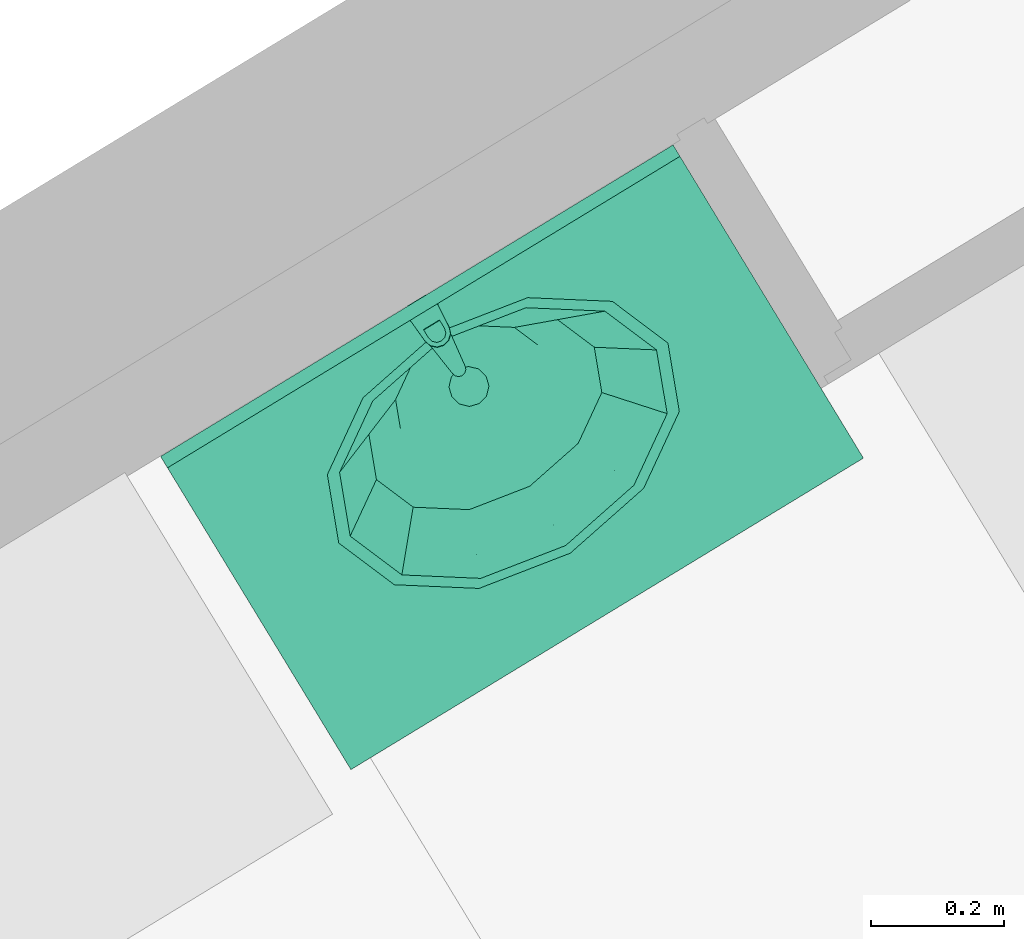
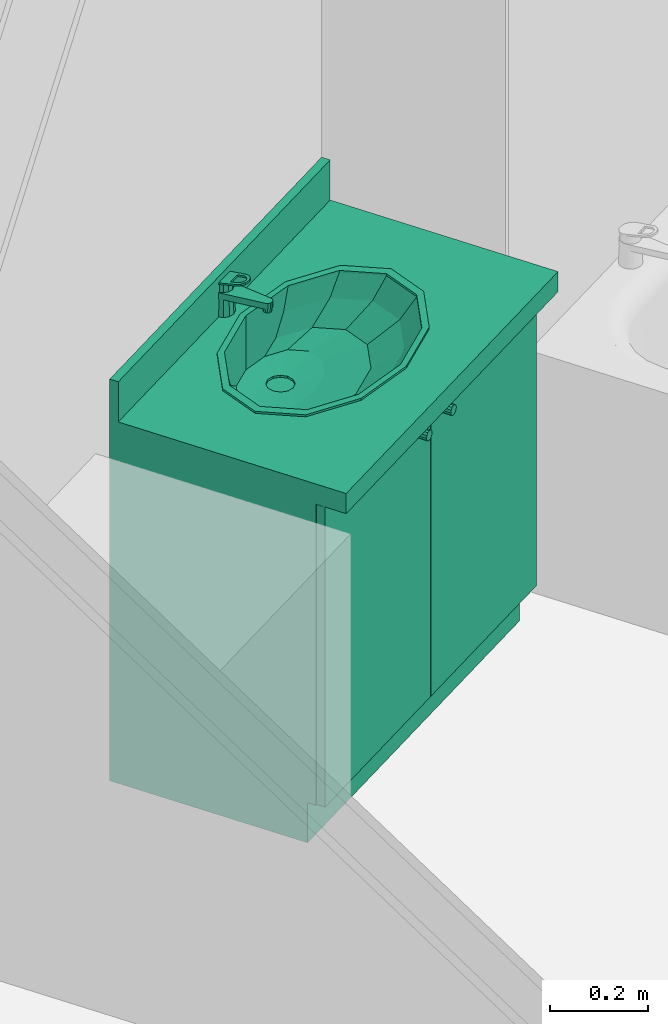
# One storey, part 116 of 119: 1 flow terminal.
"""IFC2X3 building model written with IfcOpenShell, lengths in metres."""

from ifc_helpers import new_model, entity, si_unit, converted_unit, derived_unit, money_unit, direction, frame, origin_with_axes, place, context, subcontext, project, spatial, open_shell, faceted_brep, surface_model, type_object, element, save


model = new_model("IFC2X3")

# Units and contexts
model_context = context("Model", 3, precision=1e-05, world=origin_with_axes(), true_north=direction((0.0, 1.0)))
body_context = subcontext(model_context, "Body", "Model", "MODEL_VIEW")
ifc_project = project(units=[si_unit("LENGTHUNIT", "METRE"), si_unit("AREAUNIT", "SQUARE_METRE"), si_unit("VOLUMEUNIT", "CUBIC_METRE"), converted_unit("PLANEANGLEUNIT", "DEGREE", entity("IfcPlaneAngleMeasure", 0.0174532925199), si_unit("PLANEANGLEUNIT", "RADIAN"), dimensions=[0, 0, 0, 0, 0, 0, 0]), si_unit("SOLIDANGLEUNIT", "STERADIAN"), money_unit("EUR"), converted_unit("TIMEUNIT", "Year", entity("IfcTimeMeasure", 31556926.0), si_unit("TIMEUNIT", "SECOND"), dimensions=[0, 0, 1, 0, 0, 0, 0]), si_unit("MASSUNIT", "GRAM", prefix="KILO"), si_unit("THERMODYNAMICTEMPERATUREUNIT", "DEGREE_CELSIUS"), si_unit("LUMINOUSINTENSITYUNIT", "LUMEN"), si_unit("ENERGYUNIT", "JOULE", prefix="MEGA"), derived_unit("THERMALCONDUCTANCEUNIT", [(si_unit("POWERUNIT", "WATT"), 1), (si_unit("LENGTHUNIT", "METRE"), -1), (si_unit("THERMODYNAMICTEMPERATUREUNIT", "KELVIN"), -1)]), derived_unit("SPECIFICHEATCAPACITYUNIT", [(si_unit("ENERGYUNIT", "JOULE"), 1), (si_unit("MASSUNIT", "GRAM", prefix="KILO"), -1), (si_unit("THERMODYNAMICTEMPERATUREUNIT", "KELVIN"), -1)]), derived_unit("MASSDENSITYUNIT", [(si_unit("MASSUNIT", "GRAM", prefix="KILO"), 1), (si_unit("VOLUMEUNIT", "CUBIC_METRE"), -1)])], contexts=[model_context])

# Site, building, storey
site_placement = place(None, origin_with_axes())
site = spatial("IfcSite", under=ifc_project, at=site_placement, Name="Site", CompositionType="ELEMENT")
building_placement = place(site_placement, origin_with_axes())
building = spatial("IfcBuilding", under=site, at=building_placement, Name="Bâtiment", CompositionType="ELEMENT")
storey_placement = place(building_placement, origin_with_axes())
storey = spatial("IfcBuildingStorey", under=building, at=storey_placement, Name="Rez-de-chaussée", CompositionType="ELEMENT", Elevation=0.0)

# Flow terminal
sanitary_terminal_type = type_object("IfcSanitaryTerminalType", Name="Lavabo sur meuble 23", PredefinedType="NOTDEFINED")
flow_terminal_placement = place(storey_placement, frame((-3.72495439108, 22.5185798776, 0.0), z_axis=(0.0, 0.0, 1.0), x_axis=(0.85453953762, 0.51938634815, 0.0)))
element("IfcFlowTerminal", 1, at=flow_terminal_placement, inside=storey, type_object=sanitary_terminal_type, Name="MOB-002", ObjectType="SANITARY_TERMINAL", context=body_context, shape_type="SurfaceModel", body=[
    faceted_brep([(0.0, 0.09, 0.0), (0.9, 0.09, 0.0), (0.9, 0.09, 0.1), (0.0, 0.09, 0.1), (0.0, 0.55, 0.0), (0.9, 0.55, 0.0), (0.9, 0.55, 0.1), (0.0, 0.55, 0.1)], [[[0, 1, 2, 3]], [[0, 4, 5, 1]], [[1, 5, 6, 2]], [[3, 2, 6, 7]], [[4, 0, 3, 7]], [[5, 4, 7, 6]]]),
    faceted_brep([(0.0, 0.07, 0.1), (0.02, 0.07, 0.1), (0.02, 0.07, 0.12), (0.0, 0.07, 0.12), (0.0, 0.55, 0.1), (0.02, 0.55, 0.1), (0.88, 0.55, 0.1), (0.9, 0.55, 0.1), (0.9, 0.07, 0.1), (0.88, 0.07, 0.1), (0.88, 0.07, 0.12), (0.9, 0.07, 0.12), (0.9, 0.55, 0.12), (0.88, 0.55, 0.12), (0.02, 0.55, 0.12), (0.0, 0.55, 0.12)], [[[0, 1, 2, 3]], [[0, 4, 5, 6, 7, 8, 9, 1]], [[1, 9, 10, 2]], [[3, 2, 10, 11, 12, 13, 14, 15]], [[4, 0, 3, 15]], [[5, 4, 15, 14]], [[6, 5, 14, 13]], [[7, 6, 13, 12]], [[8, 7, 12, 11]], [[9, 8, 11, 10]]]),
    faceted_brep([(0.0, 0.07, 0.12), (0.02, 0.07, 0.12), (0.02, 0.07, 0.85), (0.0, 0.07, 0.85), (0.0, 0.55, 0.12), (0.9, 0.55, 0.12), (0.9, 0.07, 0.12), (0.88, 0.07, 0.12), (0.88, 0.53, 0.12), (0.02, 0.53, 0.12), (0.02, 0.53, 0.85), (0.88, 0.53, 0.85), (0.88, 0.07, 0.85), (0.9, 0.07, 0.85), (0.9, 0.55, 0.85), (0.0, 0.55, 0.85)], [[[0, 1, 2, 3]], [[0, 4, 5, 6, 7, 8, 9, 1]], [[1, 9, 10, 2]], [[3, 2, 10, 11, 12, 13, 14, 15]], [[4, 0, 3, 15]], [[5, 4, 15, 14]], [[6, 5, 14, 13]], [[7, 6, 13, 12]], [[8, 7, 12, 11]], [[9, 8, 11, 10]]]),
    faceted_brep([(0.88, 0.07, 0.323333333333), (0.88, 0.53, 0.323333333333), (0.88, 0.53, 0.343333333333), (0.88, 0.07, 0.343333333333), (0.02, 0.07, 0.323333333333), (0.02, 0.53, 0.323333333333), (0.02, 0.53, 0.343333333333), (0.02, 0.07, 0.343333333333)], [[[0, 1, 2, 3]], [[0, 4, 5, 1]], [[1, 5, 6, 2]], [[3, 2, 6, 7]], [[4, 0, 3, 7]], [[5, 4, 7, 6]]]),
    faceted_brep([(0.88, 0.07, 0.566666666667), (0.88, 0.53, 0.566666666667), (0.88, 0.53, 0.586666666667), (0.88, 0.07, 0.586666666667), (0.02, 0.07, 0.566666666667), (0.02, 0.53, 0.566666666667), (0.02, 0.53, 0.586666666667), (0.02, 0.07, 0.586666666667)], [[[0, 1, 2, 3]], [[0, 4, 5, 1]], [[1, 5, 6, 2]], [[3, 2, 6, 7]], [[4, 0, 3, 7]], [[5, 4, 7, 6]]]),
    faceted_brep([(0.0, 0.55, 0.85), (0.9, 0.55, 0.85), (0.9, 0.0, 0.85), (0.0, 0.0, 0.85), (0.585, 0.144115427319, 0.85), (0.683826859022, 0.21, 0.85), (0.72, 0.3, 0.85), (0.683826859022, 0.39, 0.85), (0.585, 0.455884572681, 0.85), (0.45, 0.48, 0.85), (0.315, 0.455884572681, 0.85), (0.216173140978, 0.39, 0.85), (0.18, 0.3, 0.85), (0.216173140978, 0.21, 0.85), (0.315, 0.144115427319, 0.85), (0.45, 0.12, 0.85), (0.0, 0.55, 0.9), (0.9, 0.55, 0.9), (0.9, 0.0, 0.9), (0.0, 0.0, 0.9), (0.585, 0.144115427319, 0.9), (0.683826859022, 0.21, 0.9), (0.72, 0.3, 0.9), (0.683826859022, 0.39, 0.9), (0.585, 0.455884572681, 0.9), (0.45, 0.48, 0.9), (0.315, 0.455884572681, 0.9), (0.216173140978, 0.39, 0.9), (0.18, 0.3, 0.9), (0.216173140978, 0.21, 0.9), (0.315, 0.144115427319, 0.9), (0.45, 0.12, 0.9)], [[[0, 1, 2, 3], [4, 5, 6, 7, 8, 9, 10, 11, 12, 13, 14, 15]], [[0, 16, 17, 1]], [[1, 17, 18, 2]], [[2, 18, 19, 3]], [[3, 19, 16, 0]], [[20, 21, 5, 4]], [[21, 22, 6, 5]], [[22, 23, 7, 6]], [[23, 24, 8, 7]], [[24, 25, 9, 8]], [[25, 26, 10, 9]], [[26, 27, 11, 10]], [[27, 28, 12, 11]], [[28, 29, 13, 12]], [[29, 30, 14, 13]], [[30, 31, 15, 14]], [[31, 20, 4, 15]], [[18, 17, 16, 19], [24, 23, 22, 21, 20, 31, 30, 29, 28, 27, 26, 25]]]),
    faceted_brep([(0.0, 0.53, 0.9), (0.9, 0.53, 0.9), (0.9, 0.53, 1.0), (0.0, 0.53, 1.0), (0.0, 0.55, 0.9), (0.9, 0.55, 0.9), (0.9, 0.55, 1.0), (0.0, 0.55, 1.0)], [[[0, 1, 2, 3]], [[0, 4, 5, 1]], [[1, 5, 6, 2]], [[3, 2, 6, 7]], [[4, 0, 3, 7]], [[5, 4, 7, 6]]]),
    faceted_brep([(0.739, 0.3, 0.905), (0.739, 0.3, 0.9), (0.700281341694, 0.396691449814, 0.9), (0.700281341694, 0.396691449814, 0.905), (0.700281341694, 0.203308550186, 0.905), (0.700281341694, 0.203308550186, 0.9), (0.5945, 0.132525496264, 0.9), (0.45, 0.106617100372, 0.9), (0.3055, 0.132525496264, 0.9), (0.199718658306, 0.203308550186, 0.9), (0.161, 0.3, 0.9), (0.199718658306, 0.396691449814, 0.9), (0.3055, 0.467474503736, 0.9), (0.45, 0.493382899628, 0.9), (0.5945, 0.467474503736, 0.9), (0.719, 0.3, 0.9), (0.682960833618, 0.39, 0.9), (0.5845, 0.455884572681, 0.9), (0.45, 0.48, 0.9), (0.3155, 0.455884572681, 0.9), (0.217039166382, 0.39, 0.9), (0.181, 0.3, 0.9), (0.217039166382, 0.21, 0.9), (0.3155, 0.144115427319, 0.9), (0.45, 0.12, 0.9), (0.5845, 0.144115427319, 0.9), (0.682960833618, 0.21, 0.9), (0.5945, 0.467474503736, 0.905), (0.45, 0.493382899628, 0.905), (0.3055, 0.467474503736, 0.905), (0.199718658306, 0.396691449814, 0.905), (0.161, 0.3, 0.905), (0.199718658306, 0.203308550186, 0.905), (0.3055, 0.132525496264, 0.905), (0.45, 0.106617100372, 0.905), (0.5945, 0.132525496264, 0.905), (0.719, 0.3, 0.905), (0.682960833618, 0.21, 0.905), (0.5845, 0.144115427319, 0.905), (0.45, 0.12, 0.905), (0.3155, 0.144115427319, 0.905), (0.217039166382, 0.21, 0.905), (0.181, 0.3, 0.905), (0.217039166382, 0.39, 0.905), (0.3155, 0.455884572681, 0.905), (0.45, 0.48, 0.905), (0.5845, 0.455884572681, 0.905), (0.682960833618, 0.39, 0.905)], [[[0, 1, 2, 3]], [[4, 5, 1, 0]], [[1, 5, 6, 7, 8, 9, 10, 11, 12, 13, 14, 2], [15, 16, 17, 18, 19, 20, 21, 22, 23, 24, 25, 26]], [[3, 2, 14, 27]], [[0, 3, 27, 28, 29, 30, 31, 32, 33, 34, 35, 4], [36, 37, 38, 39, 40, 41, 42, 43, 44, 45, 46, 47]], [[35, 6, 5, 4]], [[34, 7, 6, 35]], [[33, 8, 7, 34]], [[32, 9, 8, 33]], [[31, 10, 9, 32]], [[30, 11, 10, 31]], [[29, 12, 11, 30]], [[28, 13, 12, 29]], [[27, 14, 13, 28]], [[47, 16, 15, 36]], [[46, 17, 16, 47]], [[45, 18, 17, 46]], [[44, 19, 18, 45]], [[43, 20, 19, 44]], [[42, 21, 20, 43]], [[41, 22, 21, 42]], [[40, 23, 22, 41]], [[39, 24, 23, 40]], [[38, 25, 24, 39]], [[37, 26, 25, 38]], [[36, 15, 26, 37]]]),
    surface_model("IfcShellBasedSurfaceModel", [(0.45, 0.48, 0.9), (0.45, 0.48, 0.848), (0.57105, 0.458296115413, 0.848), (0.5845, 0.455884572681, 0.9), (0.3155, 0.455884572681, 0.9), (0.32895, 0.458296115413, 0.848), (0.659664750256, 0.399, 0.848), (0.682960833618, 0.39, 0.9), (0.217039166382, 0.39, 0.9), (0.240335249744, 0.399, 0.848), (0.6921, 0.318, 0.848), (0.719, 0.3, 0.9), (0.181, 0.3, 0.9), (0.2079, 0.318, 0.848), (0.659664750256, 0.237, 0.848), (0.682960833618, 0.21, 0.9), (0.217039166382, 0.21, 0.9), (0.240335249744, 0.237, 0.848), (0.57105, 0.177703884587, 0.848), (0.5845, 0.144115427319, 0.9), (0.3155, 0.144115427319, 0.9), (0.32895, 0.177703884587, 0.848), (0.45, 0.156, 0.848), (0.45, 0.12, 0.9)], [open_shell([[[0, 1, 2, 3]], [[4, 5, 1, 0]], [[3, 2, 6, 7]], [[8, 9, 5, 4]], [[7, 6, 10, 11]], [[12, 13, 9, 8]], [[11, 10, 14, 15]], [[16, 17, 13, 12]], [[15, 14, 18, 19]], [[20, 21, 17, 16]], [[19, 18, 22, 23]], [[23, 22, 21, 20]]])]),
    surface_model("IfcShellBasedSurfaceModel", [(0.45, 0.48, 0.848), (0.45, 0.48, 0.796), (0.5456295, 0.462853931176, 0.796), (0.57105, 0.458296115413, 0.848), (0.32895, 0.458296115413, 0.848), (0.3543705, 0.462853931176, 0.796), (0.615635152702, 0.41601, 0.796), (0.659664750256, 0.399, 0.848), (0.240335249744, 0.399, 0.848), (0.284364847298, 0.41601, 0.796), (0.641259, 0.35202, 0.796), (0.6921, 0.318, 0.848), (0.2079, 0.318, 0.848), (0.258741, 0.35202, 0.796), (0.615635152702, 0.28803, 0.796), (0.659664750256, 0.237, 0.848), (0.240335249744, 0.237, 0.848), (0.284364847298, 0.28803, 0.796), (0.5456295, 0.241186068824, 0.796), (0.57105, 0.177703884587, 0.848), (0.32895, 0.177703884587, 0.848), (0.3543705, 0.241186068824, 0.796), (0.45, 0.22404, 0.796), (0.45, 0.156, 0.848)], [open_shell([[[0, 1, 2, 3]], [[4, 5, 1, 0]], [[3, 2, 6, 7]], [[8, 9, 5, 4]], [[7, 6, 10, 11]], [[12, 13, 9, 8]], [[11, 10, 14, 15]], [[16, 17, 13, 12]], [[15, 14, 18, 19]], [[20, 21, 17, 16]], [[19, 18, 22, 23]], [[23, 22, 21, 20]]])]),
    surface_model("IfcShellBasedSurfaceModel", [(0.45, 0.48, 0.796), (0.45, 0.48, 0.77), (0.510246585, 0.469197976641, 0.77), (0.5456295, 0.462853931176, 0.796), (0.3543705, 0.462853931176, 0.796), (0.389753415, 0.469197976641, 0.77), (0.554350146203, 0.4396863, 0.77), (0.615635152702, 0.41601, 0.796), (0.284364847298, 0.41601, 0.796), (0.345649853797, 0.4396863, 0.77), (0.57049317, 0.3993726, 0.77), (0.641259, 0.35202, 0.796), (0.258741, 0.35202, 0.796), (0.32950683, 0.3993726, 0.77), (0.554350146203, 0.3590589, 0.77), (0.615635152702, 0.28803, 0.796), (0.284364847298, 0.28803, 0.796), (0.345649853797, 0.3590589, 0.77), (0.510246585, 0.329547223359, 0.77), (0.5456295, 0.241186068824, 0.796), (0.3543705, 0.241186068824, 0.796), (0.389753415, 0.329547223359, 0.77), (0.45, 0.3187452, 0.77), (0.45, 0.22404, 0.796)], [open_shell([[[0, 1, 2, 3]], [[4, 5, 1, 0]], [[3, 2, 6, 7]], [[8, 9, 5, 4]], [[7, 6, 10, 11]], [[12, 13, 9, 8]], [[11, 10, 14, 15]], [[16, 17, 13, 12]], [[15, 14, 18, 19]], [[20, 21, 17, 16]], [[19, 18, 22, 23]], [[23, 22, 21, 20]]])]),
    surface_model("IfcShellBasedSurfaceModel", [(0.45, 0.48, 0.77), (0.465, 0.425353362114, 0.763), (0.510246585, 0.469197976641, 0.77), (0.45, 0.4293726, 0.763), (0.475980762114, 0.4143726, 0.763), (0.389753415, 0.469197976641, 0.77), (0.554350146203, 0.4396863, 0.77), (0.435, 0.425353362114, 0.763), (0.48, 0.3993726, 0.763), (0.345649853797, 0.4396863, 0.77), (0.57049317, 0.3993726, 0.77), (0.424019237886, 0.4143726, 0.763), (0.475980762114, 0.3843726, 0.763), (0.32950683, 0.3993726, 0.77), (0.554350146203, 0.3590589, 0.77), (0.42, 0.3993726, 0.763), (0.465, 0.373391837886, 0.763), (0.345649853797, 0.3590589, 0.77), (0.510246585, 0.329547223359, 0.77), (0.424019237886, 0.3843726, 0.763), (0.45, 0.3693726, 0.763), (0.389753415, 0.329547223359, 0.77), (0.45, 0.3187452, 0.77), (0.435, 0.373391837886, 0.763)], [open_shell([[[0, 1, 2]], [[0, 3, 1]], [[2, 1, 4]], [[5, 3, 0]], [[2, 4, 6]], [[5, 7, 3]], [[6, 4, 8]], [[9, 7, 5]], [[6, 8, 10]], [[9, 11, 7]], [[10, 8, 12]], [[13, 11, 9]], [[10, 12, 14]], [[13, 15, 11]], [[14, 12, 16]], [[17, 15, 13]], [[14, 16, 18]], [[17, 19, 15]], [[18, 16, 20]], [[21, 19, 17]], [[18, 20, 22]], [[21, 23, 19]], [[22, 20, 23]], [[22, 23, 21]]])]),
    surface_model("IfcShellBasedSurfaceModel", [(0.48, 0.3993726, 0.763), (0.48, 0.3993726, 0.758), (0.475980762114, 0.4143726, 0.758), (0.475980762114, 0.4143726, 0.763), (0.475980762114, 0.3843726, 0.763), (0.475980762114, 0.3843726, 0.758), (0.465, 0.373391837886, 0.758), (0.45, 0.3693726, 0.758), (0.435, 0.373391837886, 0.758), (0.424019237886, 0.3843726, 0.758), (0.42, 0.3993726, 0.758), (0.424019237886, 0.4143726, 0.758), (0.435, 0.425353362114, 0.758), (0.45, 0.4293726, 0.758), (0.465, 0.425353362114, 0.758), (0.465, 0.425353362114, 0.763), (0.465, 0.373391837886, 0.763), (0.45, 0.3693726, 0.763), (0.435, 0.373391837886, 0.763), (0.424019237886, 0.3843726, 0.763), (0.42, 0.3993726, 0.763), (0.424019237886, 0.4143726, 0.763), (0.435, 0.425353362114, 0.763), (0.45, 0.4293726, 0.763)], [open_shell([[[0, 1, 2, 3]], [[4, 5, 1, 0]], [[1, 5, 6, 7, 8, 9, 10, 11, 12, 13, 14, 2]], [[3, 2, 14, 15]], [[16, 6, 5, 4]], [[17, 7, 6, 16]], [[18, 8, 7, 17]], [[19, 9, 8, 18]], [[20, 10, 9, 19]], [[21, 11, 10, 20]], [[22, 12, 11, 21]], [[23, 13, 12, 22]], [[15, 14, 13, 23]]])]),
    faceted_brep([(0.4625, 0.554150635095, 0.9), (0.45, 0.5575, 0.9), (0.45, 0.553701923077, 0.975961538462), (0.460587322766, 0.550837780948, 0.976507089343), (0.471650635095, 0.545, 0.9), (0.475, 0.5325, 0.9), (0.471650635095, 0.52, 0.9), (0.4625, 0.510849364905, 0.9), (0.45, 0.5075, 0.9), (0.4375, 0.510849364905, 0.9), (0.428349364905, 0.52, 0.9), (0.425, 0.5325, 0.9), (0.428349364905, 0.545, 0.9), (0.4375, 0.554150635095, 0.9), (0.439412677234, 0.550837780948, 0.976507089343), (0.431726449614, 0.543050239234, 0.977990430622), (0.429, 0.5325, 0.98), (0.431899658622, 0.522049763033, 0.981990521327), (0.439585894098, 0.514462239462, 0.983435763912), (0.45, 0.511698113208, 0.983962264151), (0.460414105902, 0.514462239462, 0.983435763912), (0.468100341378, 0.522049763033, 0.981990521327), (0.471, 0.5325, 0.98), (0.468273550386, 0.543050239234, 0.977990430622)], [[[0, 1, 2, 3]], [[0, 4, 5, 6, 7, 8, 9, 10, 11, 12, 13, 1]], [[1, 13, 14, 2]], [[3, 2, 14, 15, 16, 17, 18, 19, 20, 21, 22, 23]], [[4, 0, 3, 23]], [[5, 4, 23, 22]], [[6, 5, 22, 21]], [[7, 6, 21, 20]], [[8, 7, 20, 19]], [[9, 8, 19, 18]], [[10, 9, 18, 17]], [[11, 10, 17, 16]], [[12, 11, 16, 15]], [[13, 12, 15, 14]]]),
    faceted_brep([(0.459, 0.4295, 0.935), (0.457794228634, 0.434, 0.935), (0.457794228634, 0.434, 0.945), (0.459, 0.4295, 0.945), (0.457794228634, 0.425, 0.935), (0.4545, 0.421705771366, 0.935), (0.45, 0.4205, 0.935), (0.4455, 0.421705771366, 0.935), (0.442205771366, 0.425, 0.935), (0.441, 0.4295, 0.935), (0.442205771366, 0.434, 0.935), (0.4455, 0.437294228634, 0.935), (0.45, 0.4385, 0.935), (0.4545, 0.437294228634, 0.935), (0.4545, 0.437294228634, 0.945), (0.45, 0.4385, 0.945), (0.4455, 0.437294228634, 0.945), (0.442205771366, 0.434, 0.945), (0.441, 0.4295, 0.945), (0.442205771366, 0.425, 0.945), (0.4455, 0.421705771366, 0.945), (0.45, 0.4205, 0.945), (0.4545, 0.421705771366, 0.945), (0.457794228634, 0.425, 0.945)], [[[0, 1, 2, 3]], [[0, 4, 5, 6, 7, 8, 9, 10, 11, 12, 13, 1]], [[1, 13, 14, 2]], [[3, 2, 14, 15, 16, 17, 18, 19, 20, 21, 22, 23]], [[4, 0, 3, 23]], [[5, 4, 23, 22]], [[6, 5, 22, 21]], [[7, 6, 21, 20]], [[8, 7, 20, 19]], [[9, 8, 19, 18]], [[10, 9, 18, 17]], [[11, 10, 17, 16]], [[12, 11, 16, 15]], [[13, 12, 15, 14]]]),
    faceted_brep([(0.437128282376, 0.552756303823, 0.96), (0.428272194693, 0.54269320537, 0.96), (0.4261946, 0.5294501, 0.96), (0.439088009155, 0.428111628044, 0.96), (0.440971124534, 0.423216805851, 0.96), (0.444906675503, 0.419750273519, 0.96), (0.450000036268, 0.41850003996, 0.96), (0.455093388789, 0.419750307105, 0.96), (0.459028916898, 0.423216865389, 0.96), (0.460912, 0.4281117, 0.96), (0.473805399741, 0.529450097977, 0.96), (0.471727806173, 0.542693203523, 0.96), (0.462871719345, 0.552756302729, 0.96), (0.45000000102, 0.556499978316, 0.96), (0.461, 0.551552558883, 0.96), (0.469052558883, 0.5435, 0.96), (0.472, 0.5325, 0.96), (0.469052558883, 0.5215, 0.96), (0.461, 0.513447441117, 0.96), (0.45, 0.5105, 0.96), (0.439, 0.513447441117, 0.96), (0.430947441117, 0.5215, 0.96), (0.428, 0.5325, 0.96), (0.430947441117, 0.5435, 0.96), (0.439, 0.551552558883, 0.96), (0.45, 0.5545, 0.96), (0.428272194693, 0.54269320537, 0.945), (0.437128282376, 0.552756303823, 0.945), (0.4261946, 0.5294501, 0.945), (0.439088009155, 0.428111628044, 0.945), (0.440971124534, 0.423216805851, 0.945), (0.444906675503, 0.419750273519, 0.945), (0.450000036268, 0.41850003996, 0.945), (0.455093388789, 0.419750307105, 0.945), (0.459028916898, 0.423216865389, 0.945), (0.460912, 0.4281117, 0.945), (0.473805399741, 0.529450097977, 0.945), (0.471727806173, 0.542693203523, 0.945), (0.462871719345, 0.552756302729, 0.945), (0.45000000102, 0.556499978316, 0.945), (0.461375, 0.552202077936, 0.945), (0.469702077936, 0.543875, 0.945), (0.47275, 0.5325, 0.945), (0.469702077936, 0.521125, 0.945), (0.461375, 0.512797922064, 0.945), (0.45, 0.50975, 0.945), (0.438625, 0.512797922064, 0.945), (0.430297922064, 0.521125, 0.945), (0.42725, 0.5325, 0.945), (0.430297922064, 0.543875, 0.945), (0.438625, 0.552202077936, 0.945), (0.45, 0.55525, 0.945)], [[[0, 1, 2, 3, 4, 5, 6, 7, 8, 9, 10, 11, 12, 13], [14, 15, 16, 17, 18, 19, 20, 21, 22, 23, 24, 25]], [[26, 1, 0, 27]], [[28, 2, 1, 26]], [[29, 3, 2, 28]], [[30, 4, 3, 29]], [[31, 5, 4, 30]], [[32, 6, 5, 31]], [[33, 7, 6, 32]], [[34, 8, 7, 33]], [[35, 9, 8, 34]], [[36, 10, 9, 35]], [[37, 11, 10, 36]], [[38, 12, 11, 37]], [[39, 13, 12, 38]], [[27, 0, 13, 39]], [[40, 41, 15, 14]], [[41, 42, 16, 15]], [[42, 43, 17, 16]], [[43, 44, 18, 17]], [[44, 45, 19, 18]], [[20, 19, 45, 46]], [[21, 20, 46, 47]], [[22, 21, 47, 48]], [[23, 22, 48, 49]], [[24, 23, 49, 50]], [[50, 51, 25, 24]], [[51, 40, 14, 25]], [[32, 31, 30, 29, 28, 26, 27, 39, 38, 37, 36, 35, 34, 33], [44, 43, 42, 41, 40, 51, 50, 49, 48, 47, 46, 45]]]),
    faceted_brep([(0.473893, 0.53080743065, 0.980322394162), (0.471296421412, 0.543274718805, 0.977947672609), (0.471296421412, 0.544023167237, 0.981877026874), (0.473893, 0.531555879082, 0.984251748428), (0.470945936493, 0.490663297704, 0.987968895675), (0.467663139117, 0.480985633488, 0.989812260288), (0.460061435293, 0.474036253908, 0.991135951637), (0.449999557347, 0.47151438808, 0.991616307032), (0.439937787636, 0.474036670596, 0.991135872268), (0.432336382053, 0.480986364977, 0.989812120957), (0.429054, 0.490664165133, 0.987968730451), (0.426106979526, 0.530807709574, 0.980322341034), (0.428703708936, 0.543274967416, 0.977947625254), (0.43752831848, 0.552591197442, 0.976173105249), (0.450000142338, 0.556031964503, 0.975517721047), (0.46247192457, 0.552591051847, 0.976173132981), (0.464, 0.506959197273, 0.984864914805), (0.436, 0.506959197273, 0.984864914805), (0.436, 0.492143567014, 0.987686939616), (0.437875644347, 0.485267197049, 0.988996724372), (0.443, 0.480233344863, 0.989955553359), (0.45, 0.478390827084, 0.990306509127), (0.457, 0.480233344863, 0.989955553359), (0.462124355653, 0.485267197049, 0.988996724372), (0.464, 0.492143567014, 0.987686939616), (0.46247192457, 0.553339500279, 0.980102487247), (0.450000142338, 0.556780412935, 0.979447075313), (0.43752831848, 0.553339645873, 0.980102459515), (0.428703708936, 0.544023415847, 0.98187697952), (0.426106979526, 0.531556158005, 0.984251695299), (0.429054, 0.491412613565, 0.991898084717), (0.432336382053, 0.481734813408, 0.993741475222), (0.439937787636, 0.474785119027, 0.995065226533), (0.449999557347, 0.472262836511, 0.995545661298), (0.460061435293, 0.47478470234, 0.995065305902), (0.467663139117, 0.48173408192, 0.993741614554), (0.470945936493, 0.491411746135, 0.991898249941), (0.464, 0.507707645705, 0.988794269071), (0.464, 0.492892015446, 0.991616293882), (0.462124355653, 0.486015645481, 0.992926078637), (0.457, 0.480981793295, 0.993884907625), (0.45, 0.479139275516, 0.994235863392), (0.443, 0.480981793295, 0.993884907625), (0.437875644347, 0.486015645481, 0.992926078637), (0.436, 0.492892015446, 0.991616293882), (0.436, 0.507707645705, 0.988794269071)], [[[0, 1, 2, 3]], [[0, 4, 5, 6, 7, 8, 9, 10, 11, 12, 13, 14, 15, 1], [16, 17, 18, 19, 20, 21, 22, 23, 24]], [[1, 15, 25, 2]], [[3, 2, 25, 26, 27, 28, 29, 30, 31, 32, 33, 34, 35, 36], [37, 38, 39, 40, 41, 42, 43, 44, 45]], [[4, 0, 3, 36]], [[5, 4, 36, 35]], [[6, 5, 35, 34]], [[7, 6, 34, 33]], [[8, 7, 33, 32]], [[9, 8, 32, 31]], [[10, 9, 31, 30]], [[11, 10, 30, 29]], [[12, 11, 29, 28]], [[13, 12, 28, 27]], [[14, 13, 27, 26]], [[15, 14, 26, 25]], [[17, 16, 37, 45]], [[18, 17, 45, 44]], [[19, 18, 44, 43]], [[20, 19, 43, 42]], [[21, 20, 42, 41]], [[22, 21, 41, 40]], [[23, 22, 40, 39]], [[24, 23, 39, 38]], [[16, 24, 38, 37]]]),
    faceted_brep([(0.0015, 0.07, 0.1015), (0.4485, 0.07, 0.1015), (0.4485, 0.05, 0.1015), (0.0015, 0.05, 0.1015), (0.0015, 0.07, 0.8485), (0.4485, 0.07, 0.8485), (0.4485, 0.05, 0.8485), (0.0015, 0.05, 0.8485)], [[[0, 1, 2, 3]], [[0, 4, 5, 1]], [[1, 5, 6, 2]], [[3, 2, 6, 7]], [[4, 0, 3, 7]], [[5, 4, 7, 6]]]),
    faceted_brep([(0.408892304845, 0.05, 0.7855), (0.4045, 0.05, 0.781107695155), (0.3985, 0.05, 0.7795), (0.3925, 0.05, 0.781107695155), (0.388107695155, 0.05, 0.7855), (0.3865, 0.05, 0.7915), (0.388107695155, 0.05, 0.7975), (0.3925, 0.05, 0.801892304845), (0.3985, 0.05, 0.8035), (0.4045, 0.05, 0.801892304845), (0.408892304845, 0.05, 0.7975), (0.4105, 0.05, 0.7915), (0.408892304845, 0.025, 0.7855), (0.4045, 0.025, 0.781107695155), (0.3985, 0.025, 0.7795), (0.3925, 0.025, 0.781107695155), (0.388107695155, 0.025, 0.7855), (0.3865, 0.025, 0.7915), (0.388107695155, 0.025, 0.7975), (0.3925, 0.025, 0.801892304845), (0.3985, 0.025, 0.8035), (0.4045, 0.025, 0.801892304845), (0.408892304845, 0.025, 0.7975), (0.4105, 0.025, 0.7915)], [[[0, 1, 2, 3, 4, 5, 6, 7, 8, 9, 10, 11]], [[1, 0, 12, 13]], [[2, 1, 13, 14]], [[3, 2, 14, 15]], [[4, 3, 15, 16]], [[5, 4, 16, 17]], [[6, 5, 17, 18]], [[7, 6, 18, 19]], [[8, 7, 19, 20]], [[9, 8, 20, 21]], [[10, 9, 21, 22]], [[11, 10, 22, 23]], [[0, 11, 23, 12]], [[12, 23, 22, 21, 20, 19, 18, 17, 16, 15, 14, 13]]]),
    faceted_brep([(0.8985, 0.07, 0.1015), (0.8985, 0.05, 0.1015), (0.4515, 0.05, 0.1015), (0.4515, 0.07, 0.1015), (0.8985, 0.07, 0.8485), (0.8985, 0.05, 0.8485), (0.4515, 0.05, 0.8485), (0.4515, 0.07, 0.8485)], [[[0, 1, 2, 3]], [[4, 5, 1, 0]], [[1, 5, 6, 2]], [[3, 2, 6, 7]], [[0, 3, 7, 4]], [[7, 6, 5, 4]]]),
    faceted_brep([(0.491107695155, 0.05, 0.7855), (0.4895, 0.05, 0.7915), (0.491107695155, 0.05, 0.7975), (0.4955, 0.05, 0.801892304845), (0.5015, 0.05, 0.8035), (0.5075, 0.05, 0.801892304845), (0.511892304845, 0.05, 0.7975), (0.5135, 0.05, 0.7915), (0.511892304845, 0.05, 0.7855), (0.5075, 0.05, 0.781107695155), (0.5015, 0.05, 0.7795), (0.4955, 0.05, 0.781107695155), (0.491107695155, 0.025, 0.7855), (0.4895, 0.025, 0.7915), (0.491107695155, 0.025, 0.7975), (0.4955, 0.025, 0.801892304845), (0.5015, 0.025, 0.8035), (0.5075, 0.025, 0.801892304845), (0.511892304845, 0.025, 0.7975), (0.5135, 0.025, 0.7915), (0.511892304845, 0.025, 0.7855), (0.5075, 0.025, 0.781107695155), (0.5015, 0.025, 0.7795), (0.4955, 0.025, 0.781107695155)], [[[0, 1, 2, 3, 4, 5, 6, 7, 8, 9, 10, 11]], [[0, 12, 13, 1]], [[1, 13, 14, 2]], [[2, 14, 15, 3]], [[3, 15, 16, 4]], [[4, 16, 17, 5]], [[5, 17, 18, 6]], [[6, 18, 19, 7]], [[7, 19, 20, 8]], [[8, 20, 21, 9]], [[9, 21, 22, 10]], [[10, 22, 23, 11]], [[11, 23, 12, 0]], [[12, 23, 22, 21, 20, 19, 18, 17, 16, 15, 14, 13]]]),
])

save(model, "model.ifc")
